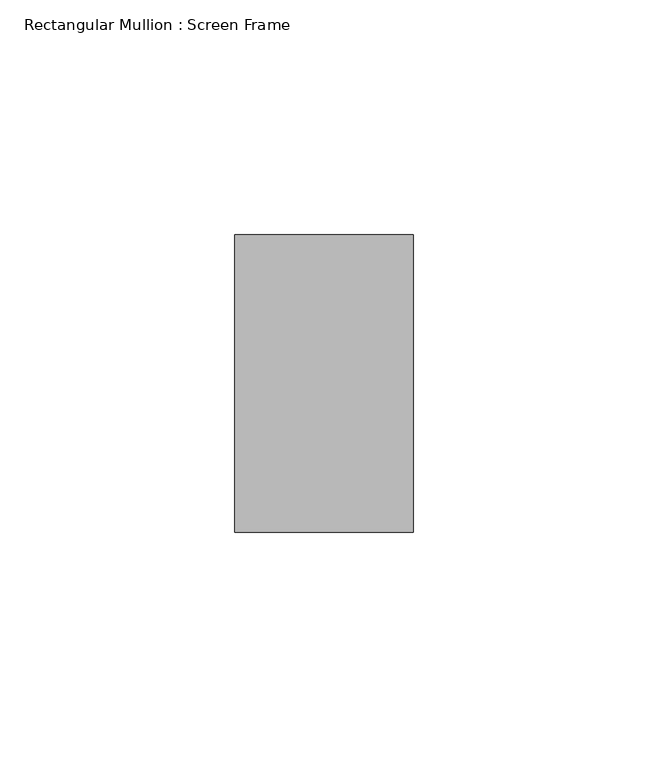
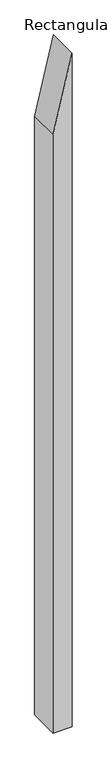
"""IFC4 building model written with IfcOpenShell, lengths in millimetres: member geometry, Rectangular Mullion : Screen Frame."""

import ifcopenshell
import ifcopenshell.guid

model = None  # the IFC model being written
_history = None  # IfcOwnerHistory: only IFC2X3 demands one
_inside = {}  # id of a spatial element -> (the spatial element, [elements in it])
_under = {}  # id of a project, library or spatial element -> (it, [spatial elements below it])
_declared = {}  # id of a project -> (the project, [libraries it declares])
_typed = {}  # id of a type object -> (the type object, [elements of that type])
_made_of = {}  # id of a material, layer set ... -> (it, [elements and type objects made of it])


def new_model(schema):
    """Start an empty IFC model of exactly this schema.

    Asked for "IFC4X3", IfcOpenShell would pick the latest addendum, in which some entities
    have other attributes; the version numbers below select the first issue.
    IFC2X3 requires an IfcOwnerHistory on every rooted entity: one is made here for all.
    """
    global model, _history
    if schema == "IFC4X3":
        model = ifcopenshell.file(schema_version=(4, 3, 0, 0))
    else:
        model = ifcopenshell.file(schema=schema)
    _inside.clear()
    _under.clear()
    _declared.clear()
    _typed.clear()
    _made_of.clear()
    _history = None
    if model.schema == "IFC2X3":
        org = make("IfcOrganization", Name="unknown")
        user = make(
            "IfcPersonAndOrganization",
            ThePerson=make("IfcPerson", FamilyName="unknown"),
            TheOrganization=org,
        )
        app = make(
            "IfcApplication",
            ApplicationDeveloper=org,
            Version="unknown",
            ApplicationFullName="unknown",
            ApplicationIdentifier="unknown",
        )
        _history = make(
            "IfcOwnerHistory",
            OwningUser=user,
            OwningApplication=app,
            ChangeAction="ADDED",
            CreationDate=0,
        )
    return model


def make(cls, **values):
    """One entity of the class cls with the attributes given. An attribute that is None is left unset."""
    return model.create_entity(
        cls, **{name: value for name, value in values.items() if value is not None}
    )


def rooted(cls, **values):
    """An entity with a GlobalId (a new one), such as an element, a storey or a relation."""
    return make(cls, GlobalId=ifcopenshell.guid.new(), OwnerHistory=_history, **values)


def si_unit(unit_type, name, prefix=None):
    """IfcSIUnit, for example si_unit("LENGTHUNIT", "METRE", prefix="MILLI")."""
    return make("IfcSIUnit", UnitType=unit_type, Prefix=prefix, Name=name)


def assignment(units):
    """IfcUnitAssignment: the units of a project."""
    return None if units is None else make("IfcUnitAssignment", Units=units)


def point(xyz):
    """IfcCartesianPoint."""
    return None if xyz is None else make("IfcCartesianPoint", Coordinates=xyz)


def direction(xyz):
    """IfcDirection."""
    return None if xyz is None else make("IfcDirection", DirectionRatios=xyz)


def frame(location, z_axis=None, x_axis=None):
    """IfcAxis2Placement3D, a coordinate frame: its origin and axes. An axis left out is left unset."""
    return make(
        "IfcAxis2Placement3D",
        Location=point(location),
        Axis=direction(z_axis),
        RefDirection=direction(x_axis),
    )


def origin():
    """The frame at (0, 0, 0) with its axes left unset."""
    return frame((0.0, 0.0, 0.0))


def place(relative_to, where):
    """IfcLocalPlacement: puts the frame where relative to a parent placement (None: the world)."""
    return make(
        "IfcLocalPlacement", PlacementRelTo=relative_to, RelativePlacement=where
    )


def context(
    kind, dimensions, precision=None, world=None, true_north=None, identifier=None
):
    """IfcGeometricRepresentationContext, for example the 3D "Model" context."""
    return make(
        "IfcGeometricRepresentationContext",
        ContextIdentifier=identifier,
        ContextType=kind,
        CoordinateSpaceDimension=dimensions,
        Precision=precision,
        WorldCoordinateSystem=world,
        TrueNorth=true_north,
    )


def project(units=None, contexts=None):
    """IfcProject with its units and contexts."""
    return rooted(
        "IfcProject",
        Name="project",
        RepresentationContexts=contexts,
        UnitsInContext=assignment(units),
    )


def spatial(cls, under=None, at=None, **own):
    """A site, building, storey or space (cls), placed at a placement, below another one or the project."""
    s = rooted(cls, ObjectPlacement=at, **own)
    if under is not None:
        _under.setdefault(under.id(), (under, []))[1].append(s)
    return s


def polyline(points):
    """IfcPolyline through the points."""
    return make("IfcPolyline", Points=[point(p) for p in points])


def outline(outer, holes=None, kind="AREA"):
    """IfcArbitraryClosedProfileDef: a profile drawn as a closed curve; with holes, ...WithVoids."""
    if holes is None:
        return make("IfcArbitraryClosedProfileDef", ProfileType=kind, OuterCurve=outer)
    return make(
        "IfcArbitraryProfileDefWithVoids",
        ProfileType=kind,
        OuterCurve=outer,
        InnerCurves=holes,
    )


def extrude(swept, where, along, depth):
    """IfcExtrudedAreaSolid: the profile swept, set in the frame where, extruded along a direction by depth."""
    return make(
        "IfcExtrudedAreaSolid",
        SweptArea=swept,
        Position=where,
        ExtrudedDirection=direction(along),
        Depth=depth,
    )


def shape(context_of_items, identifier, shape_type, items):
    """IfcShapeRepresentation: the items that make up one representation, for example the "Body"."""
    return make(
        "IfcShapeRepresentation",
        ContextOfItems=context_of_items,
        RepresentationIdentifier=identifier,
        RepresentationType=shape_type,
        Items=items,
    )


def source(mapping_origin, context_of_items, identifier, shape_type, items):
    """IfcRepresentationMap: a shape defined once, which mapped items show again and again."""
    return make(
        "IfcRepresentationMap",
        MappingOrigin=mapping_origin,
        MappedRepresentation=shape(context_of_items, identifier, shape_type, items),
    )


def transform(
    local_origin,
    x_axis=None,
    y_axis=None,
    z_axis=None,
    scale=None,
    scale2=None,
    scale3=None,
    uniform=True,
):
    """IfcCartesianTransformationOperator3D, or its non-uniform kind. x_axis, y_axis, z_axis: its Axis1, 2, 3."""
    if uniform:
        return make(
            "IfcCartesianTransformationOperator3D",
            Axis1=direction(x_axis),
            Axis2=direction(y_axis),
            LocalOrigin=point(local_origin),
            Scale=scale,
            Axis3=direction(z_axis),
        )
    return make(
        "IfcCartesianTransformationOperator3DnonUniform",
        Axis1=direction(x_axis),
        Axis2=direction(y_axis),
        LocalOrigin=point(local_origin),
        Scale=scale,
        Axis3=direction(z_axis),
        Scale2=scale2,
        Scale3=scale3,
    )


def mapped(mapping_source, mapping_target):
    """IfcMappedItem: shows the shape of a source again, moved by a transform."""
    return make(
        "IfcMappedItem", MappingSource=mapping_source, MappingTarget=mapping_target
    )


def made_of(thing, what):
    """Note that an element or type object is made of a material, layer set ...; save() writes the relation."""
    if what is not None:
        _made_of.setdefault(what.id(), (what, []))[1].append(thing)
    return thing


def element(
    cls,
    number,
    at=None,
    inside=None,
    cuts=None,
    type_object=None,
    material=None,
    context=None,
    identifier="Body",
    shape_type=None,
    held_by="IfcProductDefinitionShape",
    body=None,
    shapes=None,
    **own,
):
    """One element of the class cls, such as IfcWall. Its Tag is "e" and its number.

    at: its placement. inside: the storey or other place that contains it. cuts: it is an
    opening in that element (IfcRelVoidsElement). A single representation is given by context,
    identifier, shape_type and body (its items); several are given by shapes. held_by: the class
    of the entity that holds the representations. save() writes the other relations.
    """
    e = rooted(cls, Tag="e%d" % number, ObjectPlacement=at, **own)
    if body is not None:
        shapes = [shape(context, identifier, shape_type, body)]
    if shapes is not None:
        e.Representation = make(held_by, Representations=shapes)
    if inside is not None:
        _inside.setdefault(inside.id(), (inside, []))[1].append(e)
    if cuts is not None:
        rooted(
            "IfcRelVoidsElement", RelatingBuildingElement=cuts, RelatedOpeningElement=e
        )
    if type_object is not None:
        _typed.setdefault(type_object.id(), (type_object, []))[1].append(e)
    return made_of(e, material)


def aggregate(whole, parts):
    """IfcRelAggregates: a whole, such as a stair, and the parts it consists of."""
    return rooted("IfcRelAggregates", RelatingObject=whole, RelatedObjects=parts)


def save(model, path):
    """Write the relations noted so far, then the file.

    IfcRelAggregates (storeys below a building ...), IfcRelContainedInSpatialStructure (elements
    in a storey), IfcRelDefinesByType, IfcRelAssociatesMaterial and IfcRelDeclares: one each for
    every whole, place, type object, material and project.
    """
    for whole, parts in _under.values():
        aggregate(whole, parts)
    for where, things in _inside.values():
        rooted(
            "IfcRelContainedInSpatialStructure",
            RelatedElements=things,
            RelatingStructure=where,
        )
    for kind, things in _typed.values():
        rooted("IfcRelDefinesByType", RelatedObjects=things, RelatingType=kind)
    for what, things in _made_of.values():
        rooted("IfcRelAssociatesMaterial", RelatedObjects=things, RelatingMaterial=what)
    for by, libraries in _declared.values():
        rooted("IfcRelDeclares", RelatingContext=by, RelatedDefinitions=libraries)
    model.write(path)


def rectangular_mullion_screen_frame_7a745c24(model_context):
    return source(origin(), model_context, "Body", "SweptSolid", [
        extrude(outline(polyline([(0.0, 0.0), (-159.034112, -38.1), (-1422.9588, -38.1), (-1422.9588, 0.0), (0.0, 0.0)])), frame((0.0, -31.75, 0.0), z_axis=(0.0, 1.0, 0.0), x_axis=(0.0, 0.0, 1.0)), (0.0, 0.0, 1.0), 63.5),
    ])


if __name__ == "__main__":
    model = new_model("IFC4")
    model_context = context("Model", 3, world=origin())
    ifc_project = project(units=[si_unit("LENGTHUNIT", "METRE", prefix="MILLI")], contexts=[model_context])
    site = spatial("IfcSite", under=ifc_project)
    building = spatial("IfcBuilding", under=site)
    placement = place(None, origin())
    rectangular_mullion_screen_frame_shape = rectangular_mullion_screen_frame_7a745c24(model_context)
    element("IfcMember", 1, ObjectType="Rectangular Mullion : Screen Frame", at=placement, inside=building, context=model_context, shape_type="MappedRepresentation", body=[
        mapped(rectangular_mullion_screen_frame_shape, transform((0.0, 0.0, 0.0), x_axis=(1.0, 0.0, 0.0), y_axis=(0.0, 1.0, 0.0), z_axis=(0.0, 0.0, 1.0))),
    ])
    save(model, "model.ifc")
